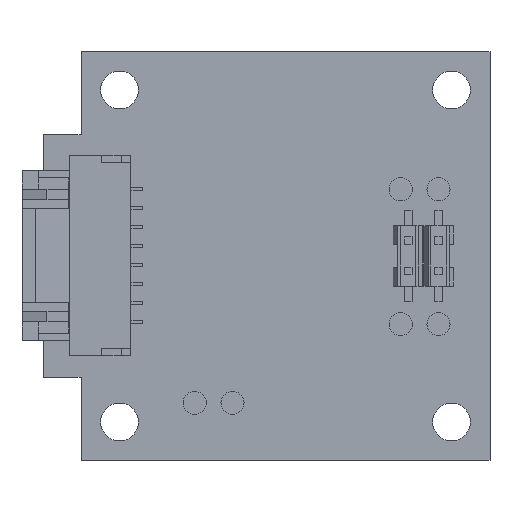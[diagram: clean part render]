
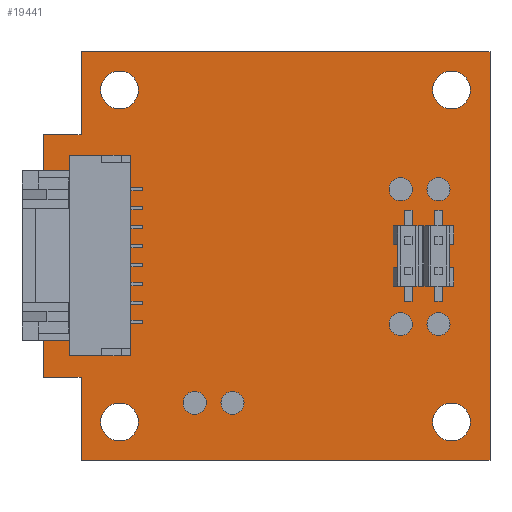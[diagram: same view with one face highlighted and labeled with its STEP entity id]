
A CAD part, top view. The second image highlights one B-rep face of the part: STEP entity #19441.
In plain terms, the highlighted planar face has unit normal (0, 0, 1).
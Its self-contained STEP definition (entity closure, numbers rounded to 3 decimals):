
#717=LINE('',#31312,#3097);
#718=LINE('',#31315,#3098);
#719=LINE('',#31317,#3099);
#720=LINE('',#31319,#3100);
#721=LINE('',#31321,#3101);
#722=LINE('',#31323,#3102);
#723=LINE('',#31325,#3103);
#724=LINE('',#31327,#3104);
#3097=VECTOR('',#25694,1000.);
#3098=VECTOR('',#25695,1000.);
#3099=VECTOR('',#25696,1000.);
#3100=VECTOR('',#25697,1000.);
#3101=VECTOR('',#25698,1000.);
#3102=VECTOR('',#25699,1000.);
#3103=VECTOR('',#25700,1000.);
#3104=VECTOR('',#25701,1000.);
#5477=ORIENTED_EDGE('',*,*,#11179,.F.);
#5478=ORIENTED_EDGE('',*,*,#11180,.F.);
#5479=ORIENTED_EDGE('',*,*,#11181,.F.);
#5480=ORIENTED_EDGE('',*,*,#11182,.F.);
#5481=ORIENTED_EDGE('',*,*,#11183,.T.);
#5482=ORIENTED_EDGE('',*,*,#11184,.T.);
#5483=ORIENTED_EDGE('',*,*,#11185,.T.);
#5484=ORIENTED_EDGE('',*,*,#11186,.T.);
#5485=ORIENTED_EDGE('',*,*,#11187,.T.);
#5486=ORIENTED_EDGE('',*,*,#11188,.T.);
#5487=ORIENTED_EDGE('',*,*,#11189,.T.);
#5488=ORIENTED_EDGE('',*,*,#11190,.T.);
#11179=EDGE_CURVE('',#14030,#14030,#15900,.T.);
#11180=EDGE_CURVE('',#14031,#14031,#15901,.T.);
#11181=EDGE_CURVE('',#14032,#14032,#15902,.T.);
#11182=EDGE_CURVE('',#14033,#14033,#15903,.T.);
#11183=EDGE_CURVE('',#14034,#14035,#717,.T.);
#11184=EDGE_CURVE('',#14035,#14036,#718,.T.);
#11185=EDGE_CURVE('',#14036,#14037,#719,.T.);
#11186=EDGE_CURVE('',#14037,#14038,#720,.T.);
#11187=EDGE_CURVE('',#14038,#14039,#721,.T.);
#11188=EDGE_CURVE('',#14039,#14040,#722,.T.);
#11189=EDGE_CURVE('',#14040,#14041,#723,.T.);
#11190=EDGE_CURVE('',#14041,#14034,#724,.T.);
#14030=VERTEX_POINT('',#31305);
#14031=VERTEX_POINT('',#31307);
#14032=VERTEX_POINT('',#31309);
#14033=VERTEX_POINT('',#31311);
#14034=VERTEX_POINT('',#31313);
#14035=VERTEX_POINT('',#31314);
#14036=VERTEX_POINT('',#31316);
#14037=VERTEX_POINT('',#31318);
#14038=VERTEX_POINT('',#31320);
#14039=VERTEX_POINT('',#31322);
#14040=VERTEX_POINT('',#31324);
#14041=VERTEX_POINT('',#31326);
#15900=CIRCLE('',#24064,1.25);
#15901=CIRCLE('',#24065,1.25);
#15902=CIRCLE('',#24066,1.25);
#15903=CIRCLE('',#24067,1.25);
#16350=EDGE_LOOP('',(#5477));
#16351=EDGE_LOOP('',(#5478));
#16352=EDGE_LOOP('',(#5479));
#16353=EDGE_LOOP('',(#5480));
#16354=EDGE_LOOP('',(#5481,#5482,#5483,#5484,#5485,#5486,#5487,#5488));
#17479=FACE_BOUND('',#16350,.T.);
#17480=FACE_BOUND('',#16351,.T.);
#17481=FACE_BOUND('',#16352,.T.);
#17482=FACE_BOUND('',#16353,.T.);
#17483=FACE_BOUND('',#16354,.T.);
#18608=PLANE('',#24063);
#19441=ADVANCED_FACE('',(#17479,#17480,#17481,#17482,#17483),#18608,.T.);
#24063=AXIS2_PLACEMENT_3D('',#31303,#25684,#25685);
#24064=AXIS2_PLACEMENT_3D('',#31304,#25686,#25687);
#24065=AXIS2_PLACEMENT_3D('',#31306,#25688,#25689);
#24066=AXIS2_PLACEMENT_3D('',#31308,#25690,#25691);
#24067=AXIS2_PLACEMENT_3D('',#31310,#25692,#25693);
#25684=DIRECTION('',(0.,0.,1.));
#25685=DIRECTION('',(1.,0.,0.));
#25686=DIRECTION('',(0.,0.,1.));
#25687=DIRECTION('',(1.,0.,0.));
#25688=DIRECTION('',(0.,0.,1.));
#25689=DIRECTION('',(1.,0.,0.));
#25690=DIRECTION('',(0.,0.,1.));
#25691=DIRECTION('',(1.,0.,0.));
#25692=DIRECTION('',(0.,0.,1.));
#25693=DIRECTION('',(1.,0.,0.));
#25694=DIRECTION('',(1.,0.,0.));
#25695=DIRECTION('',(0.,-1.,0.));
#25696=DIRECTION('',(1.,0.,0.));
#25697=DIRECTION('',(0.,1.,0.));
#25698=DIRECTION('',(-1.,0.,0.));
#25699=DIRECTION('',(0.,-1.,0.));
#25700=DIRECTION('',(-1.,0.,0.));
#25701=DIRECTION('',(0.,-1.,0.));
#31303=CARTESIAN_POINT('',(-1.007,0.,1.601));
#31304=CARTESIAN_POINT('',(10.96,10.96,1.601));
#31305=CARTESIAN_POINT('',(12.21,10.96,1.601));
#31306=CARTESIAN_POINT('',(10.96,-10.96,1.601));
#31307=CARTESIAN_POINT('',(12.21,-10.96,1.601));
#31308=CARTESIAN_POINT('',(-10.96,10.96,1.601));
#31309=CARTESIAN_POINT('',(-9.71,10.96,1.601));
#31310=CARTESIAN_POINT('',(-10.96,-10.96,1.601));
#31311=CARTESIAN_POINT('',(-9.71,-10.96,1.601));
#31312=CARTESIAN_POINT('',(-16.,-8.,1.601));
#31313=CARTESIAN_POINT('',(-16.,-8.,1.601));
#31314=CARTESIAN_POINT('',(-13.5,-8.,1.601));
#31315=CARTESIAN_POINT('',(-13.5,-8.,1.601));
#31316=CARTESIAN_POINT('',(-13.5,-13.5,1.601));
#31317=CARTESIAN_POINT('',(-13.5,-13.5,1.601));
#31318=CARTESIAN_POINT('',(13.5,-13.5,1.601));
#31319=CARTESIAN_POINT('',(13.5,-13.5,1.601));
#31320=CARTESIAN_POINT('',(13.5,13.5,1.601));
#31321=CARTESIAN_POINT('',(13.5,13.5,1.601));
#31322=CARTESIAN_POINT('',(-13.5,13.5,1.601));
#31323=CARTESIAN_POINT('',(-13.5,13.5,1.601));
#31324=CARTESIAN_POINT('',(-13.5,8.,1.601));
#31325=CARTESIAN_POINT('',(-13.5,8.,1.601));
#31326=CARTESIAN_POINT('',(-16.,8.,1.601));
#31327=CARTESIAN_POINT('',(-16.,8.,1.601));
